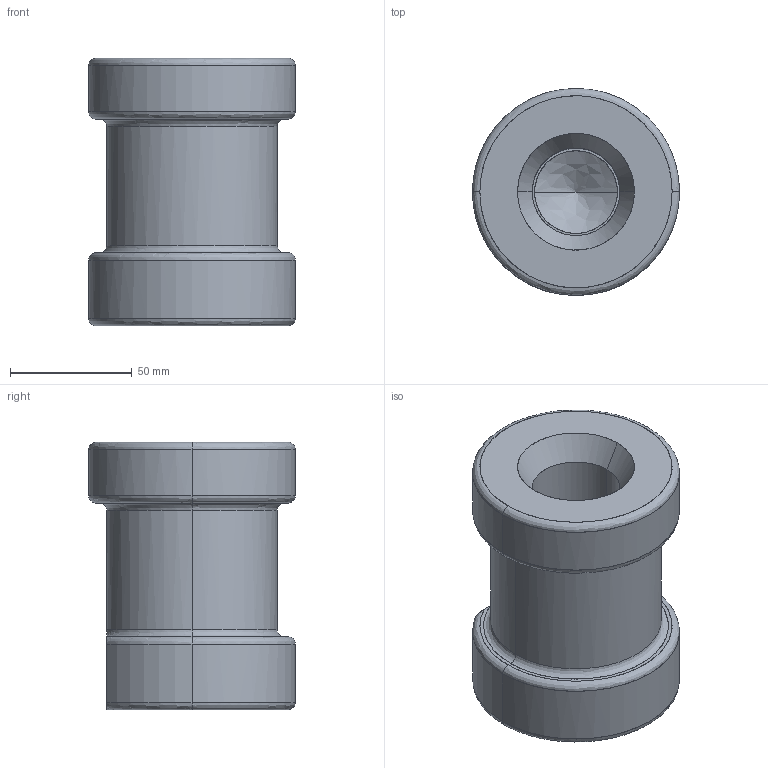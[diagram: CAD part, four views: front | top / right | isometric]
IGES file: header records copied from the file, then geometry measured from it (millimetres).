
Global section: file name: E:\UnigraphicsGraphicData\MISUMI_PRESS-PARTS\IGES\3d_csn36_03664_r00.igs; native system: NX V5.0; preprocessor: UGS NX IGES V5.0; author: MISUMI; date: 20110105.160455; units: millimetre
Bounding box: 85 x 85 x 110 mm (x, y, z)
Surface area: 49237.5 mm2 (no closed solid volume)
Topology: 0 solids, 0 shells, 36 faces, 280 edges, 278 vertices
Faces by surface type: bspline 36
